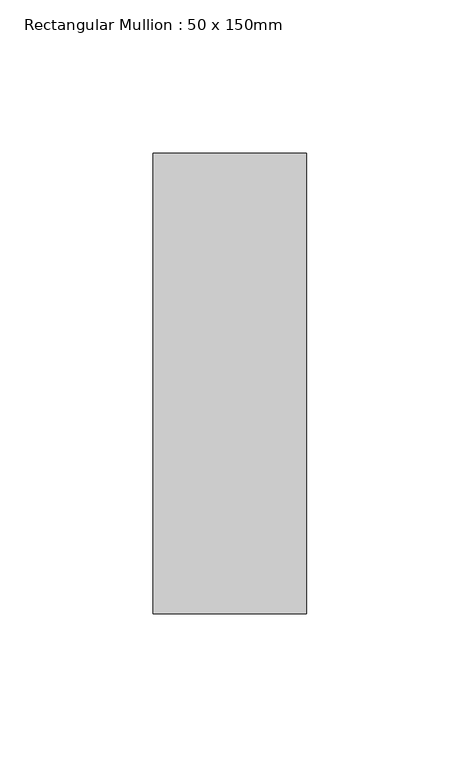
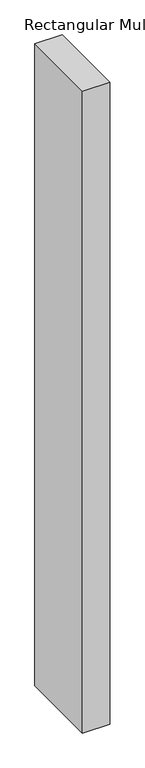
"""IFC4 building model written with IfcOpenShell, lengths in millimetres: member geometry, Rectangular Mullion : 50 x 150mm."""

from ifc_helpers import new_model, si_unit, frame, origin, place, context, project, spatial, polyline, outline, extrude, source, transform, mapped, element, save


def rectangular_mullion_50_x_150mm_eadac301(model_context):
    return source(origin(), model_context, "Body", "SweptSolid", [
        extrude(outline(polyline([(25.0, 75.0), (25.0, -75.0), (-25.0, -75.0), (-25.0, 75.0), (25.0, 75.0)])), frame((0.0, 0.0, -1236.3575), z_axis=(0.0, 0.0, 1.0), x_axis=(1.0, 0.0, 0.0)), (0.0, 0.0, 1.0), 1236.3575),
    ])


if __name__ == "__main__":
    model = new_model("IFC4")
    model_context = context("Model", 3, world=origin())
    ifc_project = project(units=[si_unit("LENGTHUNIT", "METRE", prefix="MILLI")], contexts=[model_context])
    site = spatial("IfcSite", under=ifc_project)
    building = spatial("IfcBuilding", under=site)
    placement = place(None, origin())
    rectangular_mullion_50_x_150mm_shape = rectangular_mullion_50_x_150mm_eadac301(model_context)
    element("IfcMember", 1, ObjectType="Rectangular Mullion : 50 x 150mm", at=placement, inside=building, context=model_context, shape_type="MappedRepresentation", body=[
        mapped(rectangular_mullion_50_x_150mm_shape, transform((0.0, 0.0, 0.0), x_axis=(1.0, 0.0, 0.0), y_axis=(0.0, 1.0, 0.0), z_axis=(0.0, 0.0, 1.0))),
    ])
    save(model, "model.ifc")
